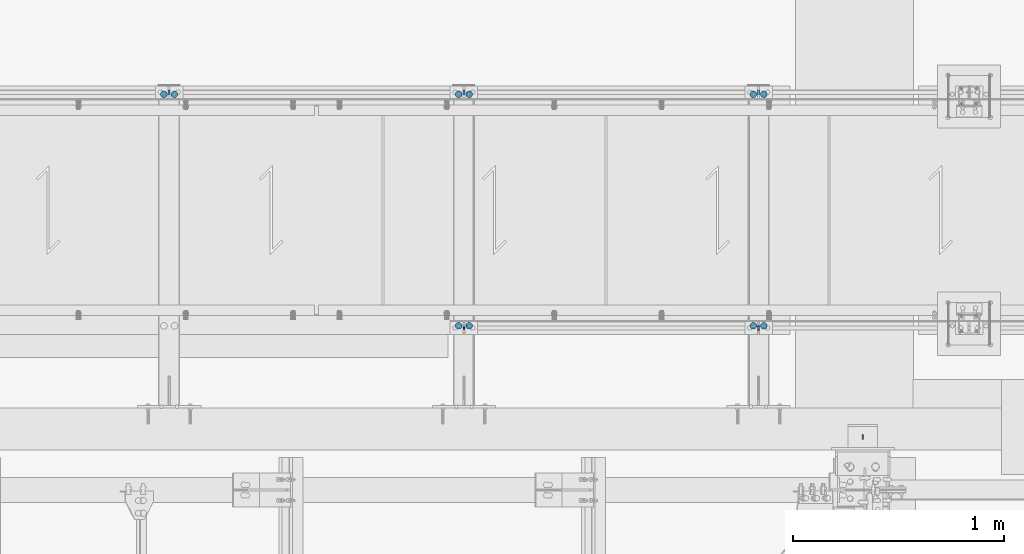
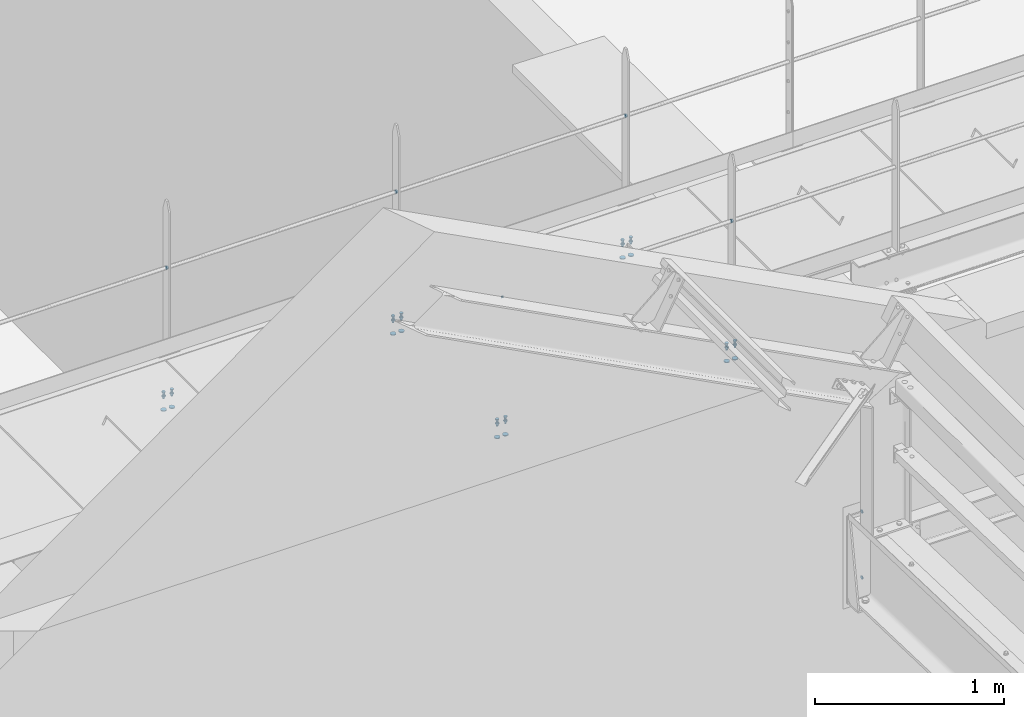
# One storey, part 301 of 362: 17 mechanical fasteners.
"""IFC2X3 building model written with IfcOpenShell, lengths in millimetres."""

from ifc_helpers import new_model, si_unit, frame, origin_with_axes, origin_2d_with_axis, place, context, subcontext, project, spatial, polyline, circle, outline, extrude, source, transform, mapped, material, type_object, element, save


model = new_model("IFC2X3")

# Units and contexts
model_context = context("Model", 3, precision=1e-05, world=origin_with_axes())
body_context = subcontext(model_context, "Body", "Model", "MODEL_VIEW")
ifc_project = project(units=[si_unit("LENGTHUNIT", "METRE", prefix="MILLI"), si_unit("AREAUNIT", "SQUARE_METRE"), si_unit("VOLUMEUNIT", "CUBIC_METRE"), si_unit("MASSUNIT", "GRAM", prefix="KILO"), si_unit("TIMEUNIT", "SECOND"), si_unit("PLANEANGLEUNIT", "RADIAN"), si_unit("SOLIDANGLEUNIT", "STERADIAN"), si_unit("THERMODYNAMICTEMPERATUREUNIT", "DEGREE_CELSIUS"), si_unit("LUMINOUSINTENSITYUNIT", "LUMEN")], contexts=[model_context])

# Site, building, storey
site_placement = place(None, origin_with_axes())
site = spatial("IfcSite", under=ifc_project, at=site_placement, Name="Undefined", CompositionType="ELEMENT")
building_placement = place(site_placement, origin_with_axes())
building = spatial("IfcBuilding", under=site, at=building_placement, Name="Undefined", CompositionType="ELEMENT")
storey_placement = place(building_placement, origin_with_axes())
storey = spatial("IfcBuildingStorey", under=building, at=storey_placement, Name="Undefined", CompositionType="ELEMENT", Elevation=0.0)

# Mechanical fasteners
ifc_material_1 = material(Name="6.8")
mechanical_fastener_type = type_object("IfcMechanicalFastenerType", Name="Bolt assembly")
shared_shape_1 = source(origin_with_axes(), body_context, "Body", "SweptSolid", [
    extrude(circle(Radius=11.0, at=origin_2d_with_axis()), frame((0.0, -5.00000000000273, 0.0), z_axis=(0.0, 1.0, 0.0), x_axis=(1.0, 0.0, 0.0)), (0.0, 0.0, 1.0), 10.1),
])
for number, where, z_axis, x_axis, name in (
    (1, (19054.9961849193, 15970.0000882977, 9243.80000001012), (0.0, 0.0, 1.0), (0.0, 1.0, 0.0), "Bolt assembly"),
    (2, (19054.9961849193, 17089.9938659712, 9243.80000001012), (0.0, 0.0, -1.0), (0.0, -1.0, 0.0), "Bolt assembly"),
    (3, (17654.9961849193, 17089.9938659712, 9243.80000001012), (0.0, 0.0, -1.0), (0.0, -1.0, 0.0), "Bolt assembly"),
    (4, (16254.9961849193, 17089.9938659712, 9243.80000001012), (0.0, 0.0, -1.0), (0.0, -1.0, 0.0), "Bolt assembly"),
):
    element("IfcMechanicalFastener", number, at=place(storey_placement, frame(where, z_axis=z_axis, x_axis=x_axis)), inside=storey, type_object=mechanical_fastener_type, material=ifc_material_1, Name=name, NominalDiameter=20.0, NominalLength=10.0, context=body_context, shape_type="MappedRepresentation", body=[
        mapped(shared_shape_1, transform((0.0, 0.0, 0.0))),
    ])
shared_shape_2 = source(origin_with_axes(), body_context, "Body", "SweptSolid", [
    extrude(circle(Radius=7.0, at=origin_2d_with_axis()), frame((0.0, -5.00000000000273, 0.0), z_axis=(0.0, 1.0, 0.0), x_axis=(1.0, 0.0, 0.0)), (0.0, 0.0, 1.0), 10.1),
])
mechanical_fastener_1_placement = place(storey_placement, frame((17654.9961849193, 15970.0000882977, 9243.80000001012), z_axis=(0.0, 0.0, -1.0), x_axis=(0.0, 1.0, 0.0)))
element("IfcMechanicalFastener", 5, at=mechanical_fastener_1_placement, inside=storey, type_object=mechanical_fastener_type, material=ifc_material_1, Name="Bolt assembly", NominalDiameter=12.0, NominalLength=10.0, context=body_context, shape_type="MappedRepresentation", body=[
    mapped(shared_shape_2, transform((0.0, 0.0, 0.0))),
])
shared_shape_3 = source(origin_with_axes(), body_context, "Body", "SweptSolid", [
    extrude(circle(Radius=16.0, at=origin_2d_with_axis()), frame((0.0, 0.0, 0.0), z_axis=(0.0, 1.0, 0.0), x_axis=(1.0, 0.0, 0.0)), (0.0, 0.0, 1.0), 5.1),
])
for number, where, z_axis, x_axis, name in (
    (6, (19055.0007605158, 15979.9857255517, 8340.0), (1.0, 0.0, 0.0), (0.0, 1.0, 0.0), "Bolt assembly"),
    (7, (17655.0007605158, 15979.9857255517, 8340.0), (1.0, 0.0, 0.0), (0.0, 1.0, 0.0), "Bolt assembly"),
):
    element("IfcMechanicalFastener", number, at=place(storey_placement, frame(where, z_axis=z_axis, x_axis=x_axis)), inside=storey, type_object=mechanical_fastener_type, material=ifc_material_1, Name=name, NominalDiameter=30.0, NominalLength=5.0, context=body_context, shape_type="MappedRepresentation", body=[
        mapped(shared_shape_3, transform((0.0, 0.0, -25.0))),
        mapped(shared_shape_3, transform((0.0, 0.0, 25.0))),
    ])
shared_shape_4 = source(origin_with_axes(), body_context, "Body", "SweptSolid", [
    extrude(circle(Radius=16.0, at=origin_2d_with_axis()), frame((0.0, -5.00000000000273, 0.0), z_axis=(0.0, 1.0, 0.0), x_axis=(1.0, 0.0, 0.0)), (0.0, 0.0, 1.0), 5.1),
])
for number, where, z_axis, x_axis, name in (
    (8, (19055.0007605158, 17079.9935808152, 8340.0), (1.0, 0.0, 0.0), (0.0, -1.0, 0.0), "Bolt assembly"),
    (9, (17655.0007605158, 17079.9935808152, 8340.0), (1.0, 0.0, 0.0), (0.0, -1.0, 0.0), "Bolt assembly"),
    (10, (16254.9999902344, 17079.9935808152, 8340.0), (1.0, 0.0, 0.0), (0.0, -1.0, 0.0), "Bolt assembly"),
):
    element("IfcMechanicalFastener", number, at=place(storey_placement, frame(where, z_axis=z_axis, x_axis=x_axis)), inside=storey, type_object=mechanical_fastener_type, material=ifc_material_1, Name=name, NominalDiameter=30.0, NominalLength=5.0, context=body_context, shape_type="MappedRepresentation", body=[
        mapped(shared_shape_4, transform((0.0, 0.0, -25.0))),
        mapped(shared_shape_4, transform((0.0, 0.0, 25.0))),
    ])
ifc_material_2 = material(Name="8.8-SB-GALVA")
shared_shape_5 = source(origin_with_axes(), body_context, "Body", "SweptSolid", [
    extrude(circle(Radius=7.0, at=origin_2d_with_axis()), frame((0.0, -13.5003368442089, 0.0), z_axis=(0.0, 1.0, 0.0), x_axis=(1.0, 0.0, 0.0)), (0.0, 0.0, 1.0), 13.6),
    extrude(circle(Radius=7.0, at=origin_2d_with_axis()), frame((0.0, -0.100011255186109, 0.0), z_axis=(0.0, 1.0, 0.0), x_axis=(1.0, 0.0, 0.0)), (0.0, 0.0, 1.0), 5.1),
    extrude(outline(polyline([(10.39230484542, 0.0), (5.19615242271, 9.00000000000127), (-5.19615242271, 9.00000000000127), (-10.39230484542, 0.0), (-5.19615242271, -9.00000000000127), (5.19615242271, -9.00000000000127), (10.39230484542, 0.0)])), frame((0.0, -21.5203368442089, 0.0), z_axis=(0.0, 1.0, 0.0), x_axis=(1.0, 0.0, 0.0)), (0.0, 0.0, 1.0), 7.92),
    extrude(circle(Radius=6.0, at=origin_2d_with_axis()), frame((0.0, -13.6003368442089, 0.0), z_axis=(0.0, 1.0, 0.0), x_axis=(1.0, 0.0, 0.0)), (0.0, 0.0, 1.0), 40.0),
    extrude(outline(polyline([(11.5008173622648, 0.0), (5.7504086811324, 9.96000000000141), (-5.7504086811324, 9.96000000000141), (-11.5008173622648, 0.0), (-5.7504086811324, -9.96000000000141), (5.7504086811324, -9.96000000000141), (11.5008173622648, 0.0)])), frame((0.0, 5.0, 0.0), z_axis=(0.0, 1.0, 0.0), x_axis=(1.0, 0.0, 0.0)), (0.0, 0.0, 1.0), 7.92),
])
for number, where, z_axis, x_axis, name in (
    (11, (17655.0007602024, 15979.9998774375, 8440.0), (-1.0, 0.0, 0.0), (0.0, 1.0, 0.0), "Bolt assembly"),
    (12, (16255.0007605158, 17079.9934272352, 8440.0), (1.0, 0.0, 0.0), (0.0, -1.0, 0.0), "Bolt assembly"),
):
    element("IfcMechanicalFastener", number, at=place(storey_placement, frame(where, z_axis=z_axis, x_axis=x_axis)), inside=storey, type_object=mechanical_fastener_type, material=ifc_material_2, Name=name, NominalDiameter=12.0, NominalLength=40.0, context=body_context, shape_type="MappedRepresentation", body=[
        mapped(shared_shape_5, transform((0.0, 0.0, -25.0))),
        mapped(shared_shape_5, transform((0.0, 0.0, 25.0))),
    ])
shared_shape_6 = source(origin_with_axes(), body_context, "Body", "SweptSolid", [
    extrude(circle(Radius=7.0, at=origin_2d_with_axis()), frame((0.0, -13.5004649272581, 0.0), z_axis=(0.0, 1.0, 0.0), x_axis=(1.0, 0.0, 0.0)), (0.0, 0.0, 1.0), 13.6),
    extrude(circle(Radius=7.0, at=origin_2d_with_axis()), frame((0.0, -0.100011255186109, 0.0), z_axis=(0.0, 1.0, 0.0), x_axis=(1.0, 0.0, 0.0)), (0.0, 0.0, 1.0), 5.1),
    extrude(outline(polyline([(10.39230484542, 0.0), (5.19615242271, 9.00000000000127), (-5.19615242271, 9.00000000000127), (-10.39230484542, 0.0), (-5.19615242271, -9.00000000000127), (5.19615242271, -9.00000000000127), (10.39230484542, 0.0)])), frame((0.0, -21.5204649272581, 0.0), z_axis=(0.0, 1.0, 0.0), x_axis=(1.0, 0.0, 0.0)), (0.0, 0.0, 1.0), 7.92),
    extrude(circle(Radius=6.0, at=origin_2d_with_axis()), frame((0.0, -13.6004649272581, 0.0), z_axis=(0.0, 1.0, 0.0), x_axis=(1.0, 0.0, 0.0)), (0.0, 0.0, 1.0), 40.0),
    extrude(outline(polyline([(11.5008173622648, 0.0), (5.7504086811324, 9.96000000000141), (-5.7504086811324, 9.96000000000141), (-11.5008173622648, 0.0), (-5.7504086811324, -9.96000000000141), (5.7504086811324, -9.96000000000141), (11.5008173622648, 0.0)])), frame((0.0, 5.0, 0.0), z_axis=(0.0, 1.0, 0.0), x_axis=(1.0, 0.0, 0.0)), (0.0, 0.0, 1.0), 7.92),
])
mechanical_fastener_2_placement = place(storey_placement, frame((19055.0007602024, 15979.9998774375, 8440.0), z_axis=(-1.0, 0.0, 0.0), x_axis=(0.0, 1.0, 0.0)))
element("IfcMechanicalFastener", 13, at=mechanical_fastener_2_placement, inside=storey, type_object=mechanical_fastener_type, material=ifc_material_2, Name="Bolt assembly", NominalDiameter=12.0, NominalLength=40.0, context=body_context, shape_type="MappedRepresentation", body=[
    mapped(shared_shape_6, transform((0.0, 0.0, -25.0))),
    mapped(shared_shape_6, transform((0.0, 0.0, 25.0))),
])
shared_shape_7 = source(origin_with_axes(), body_context, "Body", "SweptSolid", [
    extrude(circle(Radius=7.0, at=origin_2d_with_axis()), frame((0.0, -13.5008181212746, 0.0), z_axis=(0.0, 1.0, 0.0), x_axis=(1.0, 0.0, 0.0)), (0.0, 0.0, 1.0), 13.6),
    extrude(circle(Radius=7.0, at=origin_2d_with_axis()), frame((0.0, -0.100011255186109, 0.0), z_axis=(0.0, 1.0, 0.0), x_axis=(1.0, 0.0, 0.0)), (0.0, 0.0, 1.0), 5.1),
    extrude(outline(polyline([(10.39230484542, 0.0), (5.19615242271, 9.00000000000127), (-5.19615242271, 9.00000000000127), (-10.39230484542, 0.0), (-5.19615242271, -9.00000000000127), (5.19615242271, -9.00000000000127), (10.39230484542, 0.0)])), frame((0.0, -21.5208181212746, 0.0), z_axis=(0.0, 1.0, 0.0), x_axis=(1.0, 0.0, 0.0)), (0.0, 0.0, 1.0), 7.92),
    extrude(circle(Radius=6.0, at=origin_2d_with_axis()), frame((0.0, -13.6008181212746, 0.0), z_axis=(0.0, 1.0, 0.0), x_axis=(1.0, 0.0, 0.0)), (0.0, 0.0, 1.0), 40.0),
    extrude(outline(polyline([(11.5008173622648, 0.0), (5.7504086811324, 9.96000000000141), (-5.7504086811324, 9.96000000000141), (-11.5008173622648, 0.0), (-5.7504086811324, -9.96000000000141), (5.7504086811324, -9.96000000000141), (11.5008173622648, 0.0)])), frame((0.0, 5.0, 0.0), z_axis=(0.0, 1.0, 0.0), x_axis=(1.0, 0.0, 0.0)), (0.0, 0.0, 1.0), 7.92),
])
mechanical_fastener_3_placement = place(storey_placement, frame((19055.0007605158, 17079.9934272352, 8440.0), z_axis=(1.0, 0.0, 0.0), x_axis=(0.0, -1.0, 0.0)))
element("IfcMechanicalFastener", 14, at=mechanical_fastener_3_placement, inside=storey, type_object=mechanical_fastener_type, material=ifc_material_2, Name="Bolt assembly", NominalDiameter=12.0, NominalLength=40.0, context=body_context, shape_type="MappedRepresentation", body=[
    mapped(shared_shape_7, transform((0.0, 0.0, -25.0))),
    mapped(shared_shape_7, transform((0.0, 0.0, 25.0))),
])
shared_shape_8 = source(origin_with_axes(), body_context, "Body", "SweptSolid", [
    extrude(circle(Radius=7.0, at=origin_2d_with_axis()), frame((0.0, -13.5005572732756, 0.0), z_axis=(0.0, 1.0, 0.0), x_axis=(1.0, 0.0, 0.0)), (0.0, 0.0, 1.0), 13.6),
    extrude(circle(Radius=7.0, at=origin_2d_with_axis()), frame((0.0, -0.100011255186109, 0.0), z_axis=(0.0, 1.0, 0.0), x_axis=(1.0, 0.0, 0.0)), (0.0, 0.0, 1.0), 5.1),
    extrude(outline(polyline([(10.39230484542, 0.0), (5.19615242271, 9.00000000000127), (-5.19615242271, 9.00000000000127), (-10.39230484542, 0.0), (-5.19615242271, -9.00000000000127), (5.19615242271, -9.00000000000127), (10.39230484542, 0.0)])), frame((0.0, -21.5205572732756, 0.0), z_axis=(0.0, 1.0, 0.0), x_axis=(1.0, 0.0, 0.0)), (0.0, 0.0, 1.0), 7.92),
    extrude(circle(Radius=6.0, at=origin_2d_with_axis()), frame((0.0, -13.6005572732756, 0.0), z_axis=(0.0, 1.0, 0.0), x_axis=(1.0, 0.0, 0.0)), (0.0, 0.0, 1.0), 40.0),
    extrude(outline(polyline([(11.5008173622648, 0.0), (5.7504086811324, 9.96000000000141), (-5.7504086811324, 9.96000000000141), (-11.5008173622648, 0.0), (-5.7504086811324, -9.96000000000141), (5.7504086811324, -9.96000000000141), (11.5008173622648, 0.0)])), frame((0.0, 5.0, 0.0), z_axis=(0.0, 1.0, 0.0), x_axis=(1.0, 0.0, 0.0)), (0.0, 0.0, 1.0), 7.92),
])
mechanical_fastener_4_placement = place(storey_placement, frame((17655.0007605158, 17079.9934272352, 8440.0), z_axis=(1.0, 0.0, 0.0), x_axis=(0.0, -1.0, 0.0)))
element("IfcMechanicalFastener", 15, at=mechanical_fastener_4_placement, inside=storey, type_object=mechanical_fastener_type, material=ifc_material_2, Name="Bolt assembly", NominalDiameter=12.0, NominalLength=40.0, context=body_context, shape_type="MappedRepresentation", body=[
    mapped(shared_shape_8, transform((0.0, 0.0, -25.0))),
    mapped(shared_shape_8, transform((0.0, 0.0, 25.0))),
])
shared_shape_9 = source(origin_with_axes(), body_context, "Body", "SweptSolid", [
    extrude(circle(Radius=11.0, at=origin_2d_with_axis()), frame((0.0, -2.74999998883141, 0.0), z_axis=(0.0, 1.0, 0.0), x_axis=(1.0, 0.0, 0.0)), (0.0, 0.0, 1.0), 5.6),
])
for number, where, z_axis, x_axis, name in (
    (16, (19550.0000000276, 15452.0000000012, 7084.99732627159), (0.0, 0.0, 1.0), (0.0, -1.0, 0.0), "Bolt assembly"),
    (17, (19550.0000000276, 15452.0000000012, 7509.99732627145), (0.0, 0.0, 1.0), (0.0, -1.0, 0.0), "Bolt assembly"),
):
    element("IfcMechanicalFastener", number, at=place(storey_placement, frame(where, z_axis=z_axis, x_axis=x_axis)), inside=storey, type_object=mechanical_fastener_type, material=ifc_material_1, Name=name, NominalDiameter=20.0, NominalLength=5.5, context=body_context, shape_type="MappedRepresentation", body=[
        mapped(shared_shape_9, transform((0.0, 0.0, 0.0))),
    ])

save(model, "model.ifc")
